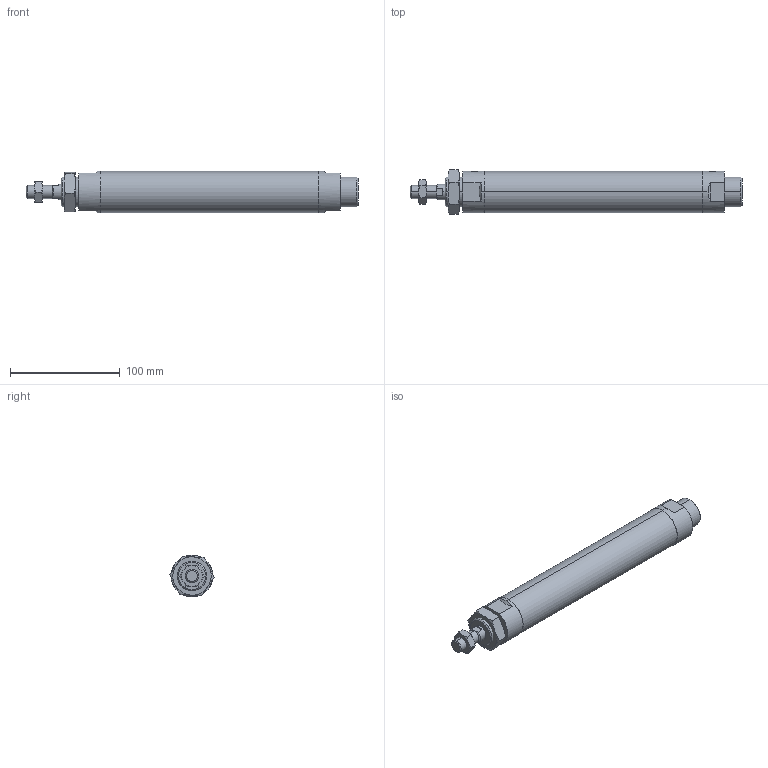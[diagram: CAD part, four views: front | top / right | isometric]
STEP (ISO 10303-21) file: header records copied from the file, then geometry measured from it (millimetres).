
FILE_DESCRIPTION (( 'STEP AP203' ), '1' );
FILE_NAME ('J#2-32-150-N.STEP', '2016-03-08T07:41:41', ( '' ), ( '' ), 'SwSTEP 2.0', 'SolidWorks 2014', '' );
FILE_SCHEMA (( 'CONFIG_CONTROL_DESIGN' ));
Length unit declared in the file: millimetre
Products named in the file (4): J#2-32-150; J#2-32-150-N
Assembly tree (3 placements, depth 2):
  J#2-32-150-N
    J#2-32-150
    (unnamed)
    (unnamed)
Bounding box: 303 x 40.33 x 38 mm (x, y, z)
Volume: 291455.5 mm3; surface area: 39740.8 mm2
Topology: 3 solids, 3 shells, 94 faces, 210 edges, 125 vertices
Faces by surface type: plane 33, torus 24, cylinder 22, cone 15
Entity records: 3451 total; most frequent: CARTESIAN_POINT 1038, DIRECTION 421, ORIENTED_EDGE 412, EDGE_CURVE 206, AXIS2_PLACEMENT_3D 178, VERTEX_POINT 125, EDGE_LOOP 105, ADVANCED_FACE 94
